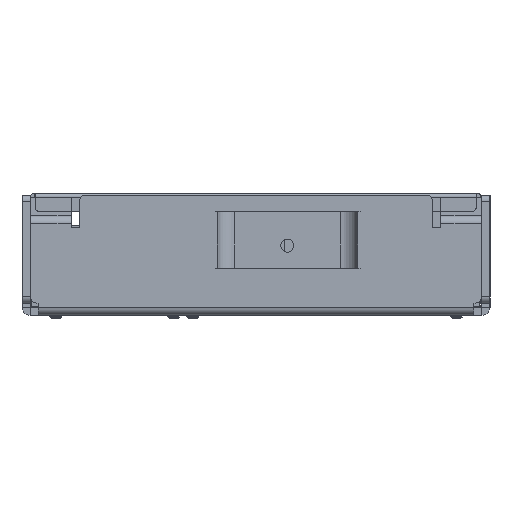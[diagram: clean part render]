
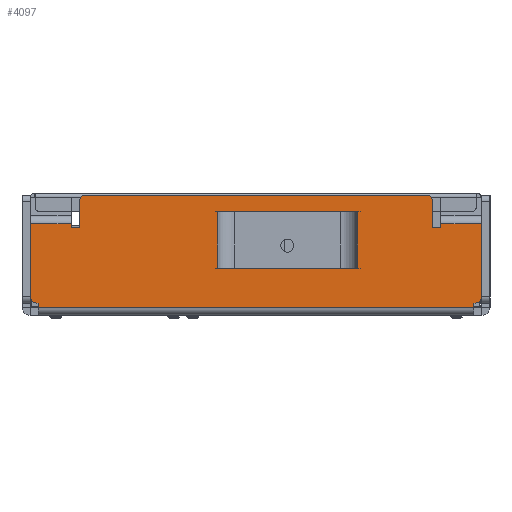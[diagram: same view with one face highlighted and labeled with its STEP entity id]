
A CAD part, left-side view. The second image highlights one B-rep face of the part: STEP entity #4097.
In plain terms, the highlighted planar face has unit normal (-1, 0, 0).
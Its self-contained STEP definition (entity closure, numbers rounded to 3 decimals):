
#744=DIRECTION('',(0.,-1.,0.));
#745=VECTOR('',#744,10.);
#746=CARTESIAN_POINT('',(0.,-36.789,20.5));
#747=LINE('',#746,#745);
#762=CARTESIAN_POINT('',(0.,50.511,26.));
#763=DIRECTION('',(-1.,0.,0.));
#764=DIRECTION('',(0.,0.,1.));
#765=AXIS2_PLACEMENT_3D('',#762,#763,#764);
#767=DIRECTION('',(0.,1.,0.));
#768=VECTOR('',#767,83.8);
#769=CARTESIAN_POINT('',(0.,-33.289,27.5));
#770=LINE('',#769,#768);
#771=CARTESIAN_POINT('',(0.,-33.289,26.));
#772=DIRECTION('',(-1.,0.,0.));
#773=DIRECTION('',(0.,-1.,0.));
#774=AXIS2_PLACEMENT_3D('',#771,#772,#773);
#776=DIRECTION('',(0.,0.,-1.));
#777=VECTOR('',#776,6.5);
#778=CARTESIAN_POINT('',(0.,-34.789,26.));
#779=LINE('',#778,#777);
#780=DIRECTION('',(0.,1.,0.));
#781=VECTOR('',#780,2.);
#782=CARTESIAN_POINT('',(0.,-36.789,19.5));
#783=LINE('',#782,#781);
#784=DIRECTION('',(0.,0.,-1.));
#785=VECTOR('',#784,1.);
#786=CARTESIAN_POINT('',(0.,-36.789,20.5));
#787=LINE('',#786,#785);
#788=DIRECTION('',(0.,0.,1.));
#789=VECTOR('',#788,18.);
#790=CARTESIAN_POINT('',(0.,-46.789,2.5));
#791=LINE('',#790,#789);
#792=CARTESIAN_POINT('',(0.,-45.289,2.5));
#793=DIRECTION('',(-1.,0.,0.));
#794=DIRECTION('',(0.,0.,-1.));
#795=AXIS2_PLACEMENT_3D('',#792,#793,#794);
#797=DIRECTION('',(0.,-1.,0.));
#798=VECTOR('',#797,0.4);
#799=CARTESIAN_POINT('',(0.,-44.889,1.));
#800=LINE('',#799,#798);
#801=DIRECTION('',(0.,0.,1.));
#802=VECTOR('',#801,1.);
#803=CARTESIAN_POINT('',(0.,-44.889,0.));
#804=LINE('',#803,#802);
#805=DIRECTION('',(0.,0.,1.));
#806=VECTOR('',#805,1.);
#807=CARTESIAN_POINT('',(0.,62.111,0.));
#808=LINE('',#807,#806);
#809=DIRECTION('',(0.,-1.,0.));
#810=VECTOR('',#809,0.4);
#811=CARTESIAN_POINT('',(0.,62.511,1.));
#812=LINE('',#811,#810);
#813=CARTESIAN_POINT('',(0.,62.511,2.5));
#814=DIRECTION('',(-1.,0.,0.));
#815=DIRECTION('',(0.,1.,0.));
#816=AXIS2_PLACEMENT_3D('',#813,#814,#815);
#818=DIRECTION('',(0.,0.,-1.));
#819=VECTOR('',#818,18.);
#820=CARTESIAN_POINT('',(0.,64.011,20.5));
#821=LINE('',#820,#819);
#822=DIRECTION('',(0.,0.,-1.));
#823=VECTOR('',#822,1.);
#824=CARTESIAN_POINT('',(0.,54.011,20.5));
#825=LINE('',#824,#823);
#826=DIRECTION('',(0.,1.,0.));
#827=VECTOR('',#826,2.);
#828=CARTESIAN_POINT('',(0.,52.011,19.5));
#829=LINE('',#828,#827);
#830=DIRECTION('',(0.,0.,-1.));
#831=VECTOR('',#830,6.5);
#832=CARTESIAN_POINT('',(0.,52.011,26.));
#833=LINE('',#832,#831);
#834=DIRECTION('',(0.,1.,0.));
#835=VECTOR('',#834,34.5);
#836=CARTESIAN_POINT('',(0.,-16.389,23.5));
#837=LINE('',#836,#835);
#838=DIRECTION('',(0.,0.,1.));
#839=VECTOR('',#838,14.);
#840=CARTESIAN_POINT('',(0.,18.111,9.5));
#841=LINE('',#840,#839);
#842=DIRECTION('',(0.,-1.,0.));
#843=VECTOR('',#842,34.5);
#844=CARTESIAN_POINT('',(0.,18.111,9.5));
#845=LINE('',#844,#843);
#846=DIRECTION('',(0.,0.,-1.));
#847=VECTOR('',#846,14.);
#848=CARTESIAN_POINT('',(0.,-16.389,23.5));
#849=LINE('',#848,#847);
#894=DIRECTION('',(0.,-1.,0.));
#895=VECTOR('',#894,10.);
#896=CARTESIAN_POINT('',(0.,64.011,20.5));
#897=LINE('',#896,#895);
#1079=DIRECTION('',(0.,-1.,0.));
#1080=VECTOR('',#1079,107.);
#1081=CARTESIAN_POINT('',(0.,62.111,0.));
#1082=LINE('',#1081,#1080);
#2680=CARTESIAN_POINT('',(0.,-44.889,0.));
#2681=CARTESIAN_POINT('',(0.,-44.889,1.));
#2682=VERTEX_POINT('',#2680);
#2683=VERTEX_POINT('',#2681);
#2684=CARTESIAN_POINT('',(0.,62.111,0.));
#2685=CARTESIAN_POINT('',(0.,62.111,1.));
#2686=VERTEX_POINT('',#2684);
#2687=VERTEX_POINT('',#2685);
#2692=CARTESIAN_POINT('',(0.,64.011,2.5));
#2693=VERTEX_POINT('',#2692);
#2694=CARTESIAN_POINT('',(0.,62.511,1.));
#2695=VERTEX_POINT('',#2694);
#2884=CARTESIAN_POINT('',(0.,-45.289,1.));
#2885=VERTEX_POINT('',#2884);
#2886=CARTESIAN_POINT('',(0.,-46.789,2.5));
#2887=VERTEX_POINT('',#2886);
#2936=CARTESIAN_POINT('',(0.,-46.789,20.5));
#2937=VERTEX_POINT('',#2936);
#2998=CARTESIAN_POINT('',(0.,64.011,20.5));
#2999=VERTEX_POINT('',#2998);
#3012=CARTESIAN_POINT('',(0.,-36.789,19.5));
#3013=CARTESIAN_POINT('',(0.,-34.789,19.5));
#3014=VERTEX_POINT('',#3012);
#3015=VERTEX_POINT('',#3013);
#3016=CARTESIAN_POINT('',(0.,52.011,19.5));
#3017=CARTESIAN_POINT('',(0.,54.011,19.5));
#3018=VERTEX_POINT('',#3016);
#3019=VERTEX_POINT('',#3017);
#3024=CARTESIAN_POINT('',(0.,50.511,27.5));
#3025=VERTEX_POINT('',#3024);
#3026=CARTESIAN_POINT('',(0.,52.011,26.));
#3027=VERTEX_POINT('',#3026);
#3032=CARTESIAN_POINT('',(0.,-34.789,26.));
#3033=VERTEX_POINT('',#3032);
#3034=CARTESIAN_POINT('',(0.,-33.289,27.5));
#3035=VERTEX_POINT('',#3034);
#3036=CARTESIAN_POINT('',(0.,-36.789,20.5));
#3037=VERTEX_POINT('',#3036);
#3038=CARTESIAN_POINT('',(0.,54.011,20.5));
#3039=VERTEX_POINT('',#3038);
#3096=CARTESIAN_POINT('',(0.,-16.389,23.5));
#3097=CARTESIAN_POINT('',(0.,18.111,23.5));
#3098=VERTEX_POINT('',#3096);
#3099=VERTEX_POINT('',#3097);
#3100=CARTESIAN_POINT('',(0.,18.111,9.5));
#3101=CARTESIAN_POINT('',(0.,-16.389,9.5));
#3102=VERTEX_POINT('',#3100);
#3103=VERTEX_POINT('',#3101);
#4042=CARTESIAN_POINT('',(0.,-46.889,-2.));
#4043=DIRECTION('',(-1.,0.,0.));
#4044=DIRECTION('',(0.,-1.,0.));
#4045=AXIS2_PLACEMENT_3D('',#4042,#4043,#4044);
#4046=PLANE('',#4045);
#4048=ORIENTED_EDGE('',*,*,#4047,.F.);
#4050=ORIENTED_EDGE('',*,*,#4049,.F.);
#4052=ORIENTED_EDGE('',*,*,#4051,.F.);
#4054=ORIENTED_EDGE('',*,*,#4053,.T.);
#4056=ORIENTED_EDGE('',*,*,#4055,.F.);
#4058=ORIENTED_EDGE('',*,*,#4057,.F.);
#4059=ORIENTED_EDGE('',*,*,#4033,.T.);
#4061=ORIENTED_EDGE('',*,*,#4060,.F.);
#4063=ORIENTED_EDGE('',*,*,#4062,.F.);
#4065=ORIENTED_EDGE('',*,*,#4064,.F.);
#4067=ORIENTED_EDGE('',*,*,#4066,.F.);
#4069=ORIENTED_EDGE('',*,*,#4068,.F.);
#4070=ORIENTED_EDGE('',*,*,#3803,.T.);
#4072=ORIENTED_EDGE('',*,*,#4071,.F.);
#4074=ORIENTED_EDGE('',*,*,#4073,.F.);
#4076=ORIENTED_EDGE('',*,*,#4075,.F.);
#4078=ORIENTED_EDGE('',*,*,#4077,.T.);
#4080=ORIENTED_EDGE('',*,*,#4079,.T.);
#4082=ORIENTED_EDGE('',*,*,#4081,.F.);
#4084=ORIENTED_EDGE('',*,*,#4083,.F.);
#4085=EDGE_LOOP('',(#4048,#4050,#4052,#4054,#4056,#4058,#4059,#4061,#4063,#4065,
#4067,#4069,#4070,#4072,#4074,#4076,#4078,#4080,#4082,#4084));
#4086=FACE_OUTER_BOUND('',#4085,.F.);
#4088=ORIENTED_EDGE('',*,*,#4087,.T.);
#4090=ORIENTED_EDGE('',*,*,#4089,.F.);
#4092=ORIENTED_EDGE('',*,*,#4091,.T.);
#4094=ORIENTED_EDGE('',*,*,#4093,.F.);
#4095=EDGE_LOOP('',(#4088,#4090,#4092,#4094));
#4096=FACE_BOUND('',#4095,.F.);
#766=CIRCLE('',#765,1.5);
#775=CIRCLE('',#774,1.5);
#796=CIRCLE('',#795,1.5);
#817=CIRCLE('',#816,1.5);
#3803=EDGE_CURVE('',#2686,#2687,#808,.T.);
#4033=EDGE_CURVE('',#3037,#2937,#747,.T.);
#4047=EDGE_CURVE('',#3025,#3027,#766,.T.);
#4049=EDGE_CURVE('',#3035,#3025,#770,.T.);
#4051=EDGE_CURVE('',#3033,#3035,#775,.T.);
#4053=EDGE_CURVE('',#3033,#3015,#779,.T.);
#4055=EDGE_CURVE('',#3014,#3015,#783,.T.);
#4057=EDGE_CURVE('',#3037,#3014,#787,.T.);
#4060=EDGE_CURVE('',#2887,#2937,#791,.T.);
#4062=EDGE_CURVE('',#2885,#2887,#796,.T.);
#4064=EDGE_CURVE('',#2683,#2885,#800,.T.);
#4066=EDGE_CURVE('',#2682,#2683,#804,.T.);
#4068=EDGE_CURVE('',#2686,#2682,#1082,.T.);
#4071=EDGE_CURVE('',#2695,#2687,#812,.T.);
#4073=EDGE_CURVE('',#2693,#2695,#817,.T.);
#4075=EDGE_CURVE('',#2999,#2693,#821,.T.);
#4077=EDGE_CURVE('',#2999,#3039,#897,.T.);
#4079=EDGE_CURVE('',#3039,#3019,#825,.T.);
#4081=EDGE_CURVE('',#3018,#3019,#829,.T.);
#4083=EDGE_CURVE('',#3027,#3018,#833,.T.);
#4087=EDGE_CURVE('',#3098,#3099,#837,.T.);
#4089=EDGE_CURVE('',#3102,#3099,#841,.T.);
#4091=EDGE_CURVE('',#3102,#3103,#845,.T.);
#4093=EDGE_CURVE('',#3098,#3103,#849,.T.);
#4097=ADVANCED_FACE('',(#4086,#4096),#4046,.T.);
